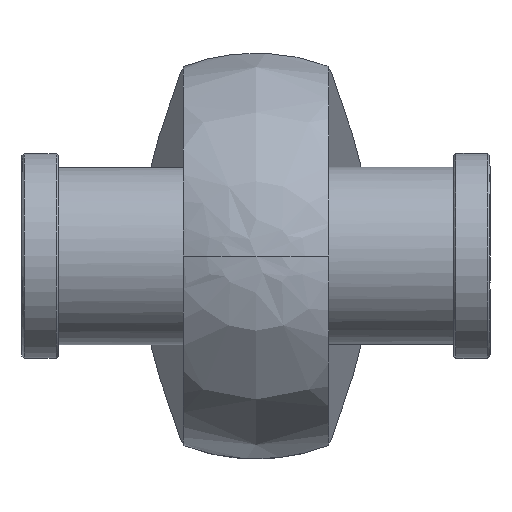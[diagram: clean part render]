
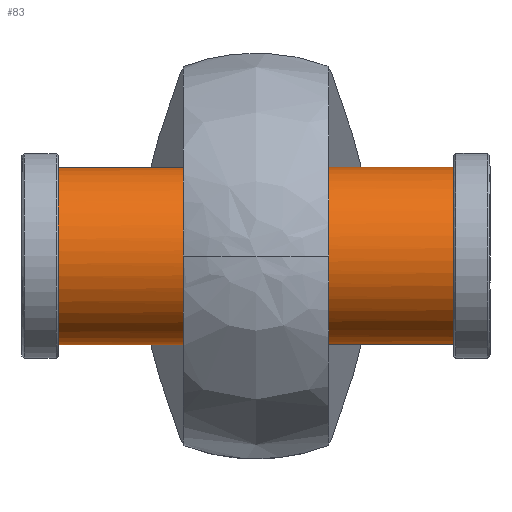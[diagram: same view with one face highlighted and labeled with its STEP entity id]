
A CAD part, left-side view. The second image highlights one B-rep face of the part: STEP entity #83.
In plain terms, the highlighted cylindrical face has radius 19.5 mm (diameter 39 mm), a full revolution.
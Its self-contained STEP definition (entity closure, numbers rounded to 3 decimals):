
#83=ADVANCED_FACE('',(#157),#1214,.T.);
#157=FACE_OUTER_BOUND('',#238,.T.);
#238=EDGE_LOOP('',(#506,#507,#508,#509));
#506=ORIENTED_EDGE('',*,*,#774,.T.);
#507=ORIENTED_EDGE('',*,*,#776,.T.);
#508=ORIENTED_EDGE('',*,*,#775,.T.);
#509=ORIENTED_EDGE('',*,*,#776,.F.);
#774=EDGE_CURVE('',#1128,#1128,#983,.T.);
#775=EDGE_CURVE('',#1129,#1129,#984,.T.);
#776=EDGE_CURVE('',#1128,#1129,#897,.T.);
#897=B_SPLINE_CURVE_WITH_KNOTS('',1,(#2248,#2249),.UNSPECIFIED.,.F.,.F.,
(2,2),(8.779,95.366),.UNSPECIFIED.);
#983=(
BOUNDED_CURVE()
B_SPLINE_CURVE(2,(#2230,#2231,#2232,#2233,#2234,#2235,#2236,#2237,#2238),
 .UNSPECIFIED.,.T.,.F.)
B_SPLINE_CURVE_WITH_KNOTS((3,2,2,2,3),(0.,30.631,61.261,
91.892,122.522),.UNSPECIFIED.)
CURVE()
GEOMETRIC_REPRESENTATION_ITEM()
RATIONAL_B_SPLINE_CURVE((1.,0.707,1.,0.707,1.,0.707,
1.,0.707,1.))
REPRESENTATION_ITEM('')
);
#984=(
BOUNDED_CURVE()
B_SPLINE_CURVE(2,(#2239,#2240,#2241,#2242,#2243,#2244,#2245,#2246,#2247),
 .UNSPECIFIED.,.T.,.F.)
B_SPLINE_CURVE_WITH_KNOTS((3,2,2,2,3),(0.,30.631,61.261,
91.892,122.522),.UNSPECIFIED.)
CURVE()
GEOMETRIC_REPRESENTATION_ITEM()
RATIONAL_B_SPLINE_CURVE((1.,0.707,1.,0.707,1.,0.707,
1.,0.707,1.))
REPRESENTATION_ITEM('')
);
#1128=VERTEX_POINT('',#2182);
#1129=VERTEX_POINT('',#2183);
#1214=CYLINDRICAL_SURFACE('',#1366,19.5);
#1366=AXIS2_PLACEMENT_3D('',#2172,#1412,$);
#1412=DIRECTION('',(0.,-1.,0.));
#2172=CARTESIAN_POINT('',(0.,0.,0.));
#2182=CARTESIAN_POINT('',(19.5,43.294,0.));
#2183=CARTESIAN_POINT('',(19.5,-43.294,0.));
#2230=CARTESIAN_POINT('',(19.5,43.294,0.));
#2231=CARTESIAN_POINT('',(19.5,43.294,19.5));
#2232=CARTESIAN_POINT('',(0.,43.294,19.5));
#2233=CARTESIAN_POINT('',(-19.5,43.294,19.5));
#2234=CARTESIAN_POINT('',(-19.5,43.294,0.));
#2235=CARTESIAN_POINT('',(-19.5,43.294,-19.5));
#2236=CARTESIAN_POINT('',(0.,43.294,-19.5));
#2237=CARTESIAN_POINT('',(19.5,43.294,-19.5));
#2238=CARTESIAN_POINT('',(19.5,43.294,0.));
#2239=CARTESIAN_POINT('',(19.5,-43.294,0.));
#2240=CARTESIAN_POINT('',(19.5,-43.294,-19.5));
#2241=CARTESIAN_POINT('',(0.,-43.294,-19.5));
#2242=CARTESIAN_POINT('',(-19.5,-43.294,-19.5));
#2243=CARTESIAN_POINT('',(-19.5,-43.294,0.));
#2244=CARTESIAN_POINT('',(-19.5,-43.294,19.5));
#2245=CARTESIAN_POINT('',(0.,-43.294,19.5));
#2246=CARTESIAN_POINT('',(19.5,-43.294,19.5));
#2247=CARTESIAN_POINT('',(19.5,-43.294,0.));
#2248=CARTESIAN_POINT('',(19.5,43.294,0.));
#2249=CARTESIAN_POINT('',(19.5,-43.294,0.));
